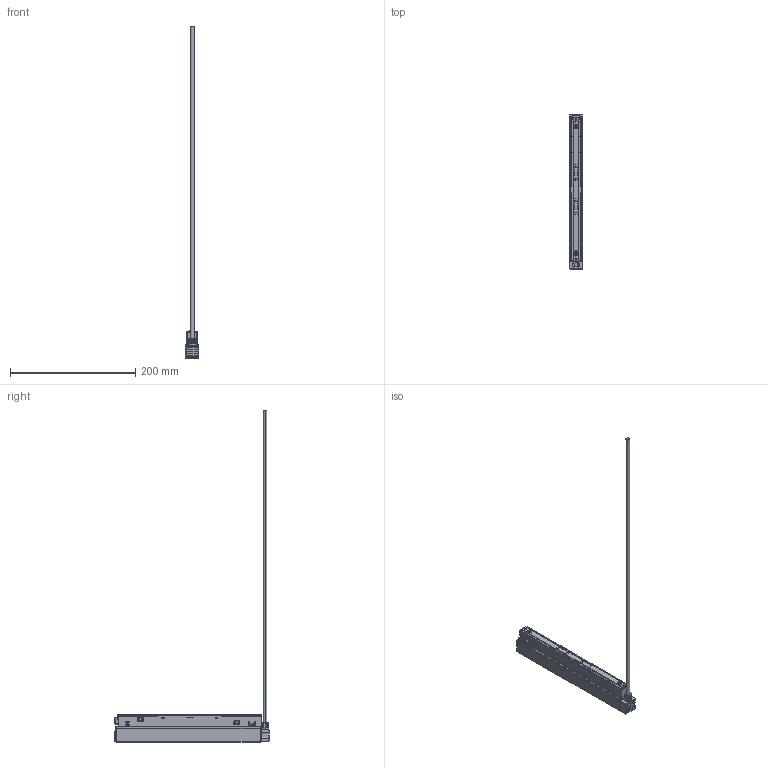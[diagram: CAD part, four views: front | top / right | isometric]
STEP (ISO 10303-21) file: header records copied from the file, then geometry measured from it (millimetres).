
FILE_DESCRIPTION((''),'2;1');
FILE_NAME('100W_ASM','2025-03-25T17:34:57',('Administrator'),(''),'CREO PARAMETRIC BY PTC INC, 2020053','CREO PARAMETRIC BY PTC INC, 2020053','');
FILE_SCHEMA(('CONFIG_CONTROL_DESIGN'));
Products named in the file (11): 3181000_4_103_35_320_18_10; 3181001_8_99_16_40_14_5; AJ_12_14_33_73_12_5_2; 230_ASM_19_ASM; LC1; LC2; MANIFOLD_SOLID_BREP_43; MANIFOLD_SOLID_BREP_44; XT; TT-2; 100W_ASM
Assembly tree (11 placements, depth 3):
  100W_ASM
    230_ASM_19_ASM
      3181000_4_103_35_320_18_10
      3181001_8_99_16_40_14_5
      AJ_12_14_33_73_12_5_2
    LC1
    LC2
    MANIFOLD_SOLID_BREP_43
    MANIFOLD_SOLID_BREP_44
    XT
    TT-2  x2
Bounding box: 22.1 x 246.8 x 530.8 mm (x, y, z)
Volume: 85149.4 mm3; surface area: 114247.6 mm2
Topology: 12 solids, 12 shells, 1806 faces, 4843 edges, 3141 vertices
Faces by surface type: plane 1140, cylinder 296, bspline 184, cone 142, torus 32, sphere 12
Entity records: 58136 total; most frequent: CARTESIAN_POINT 16727, ORIENTED_EDGE 9044, DIRECTION 7801, EDGE_CURVE 4522, VECTOR 3197, LINE 3197, VERTEX_POINT 2967, AXIS2_PLACEMENT_3D 2302
